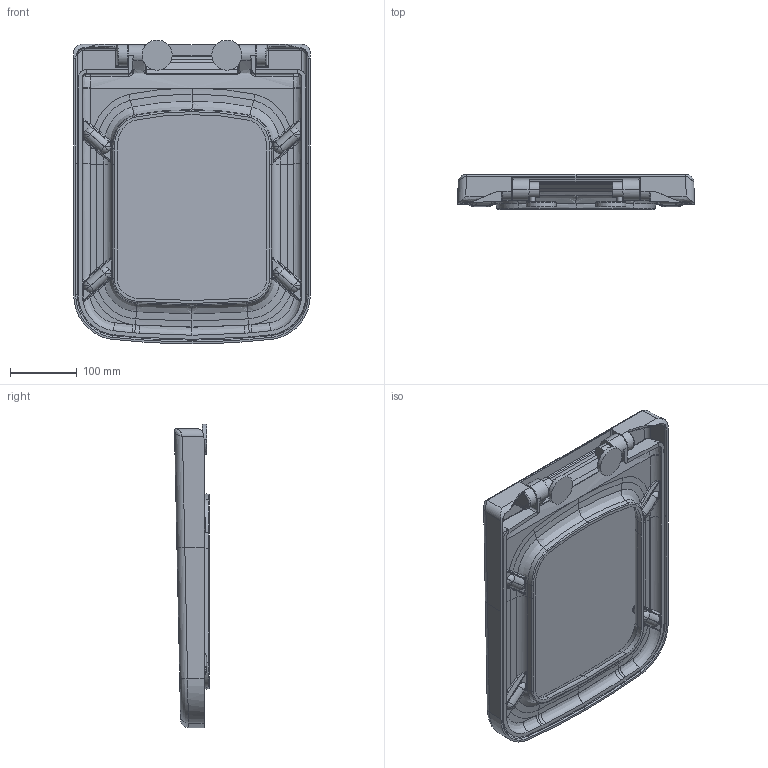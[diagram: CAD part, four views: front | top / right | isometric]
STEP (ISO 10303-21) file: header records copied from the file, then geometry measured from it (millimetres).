
FILE_DESCRIPTION (( 'STEP AP203' ), '1' );
FILE_NAME ('BENE KAPAK.STEP', '2018-05-21T07:48:25', ( '' ), ( '' ), 'SwSTEP 2.0', 'SolidWorks 2018', '' );
FILE_SCHEMA (( 'CONFIG_CONTROL_DESIGN' ));
Length unit declared in the file: millimetre
Products named in the file (1): BENE KAPAK
Bounding box: 354 x 52.35 x 454.52 mm (x, y, z)
Volume: 1711712.3 mm3; surface area: 648826.7 mm2
Topology: 12 solids, 12 shells, 849 faces, 2005 edges, 1163 vertices
Faces by surface type: bspline 299, cylinder 215, plane 147, torus 132, cone 56
Entity records: 51537 total; most frequent: CARTESIAN_POINT 34541, ORIENTED_EDGE 3946, DIRECTION 3008, EDGE_CURVE 1973, AXIS2_PLACEMENT_3D 1231, VERTEX_POINT 1163, EDGE_LOOP 870, ADVANCED_FACE 849
